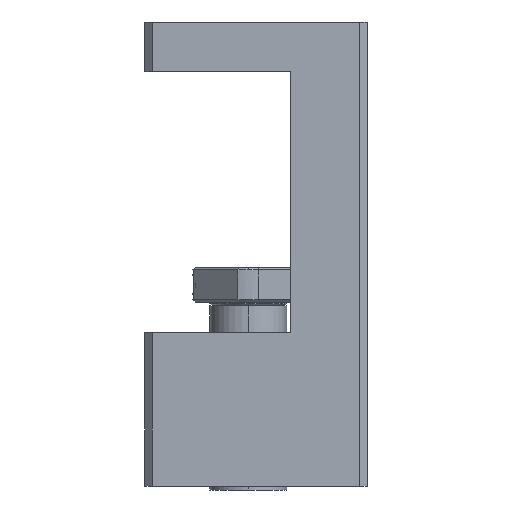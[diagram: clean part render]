
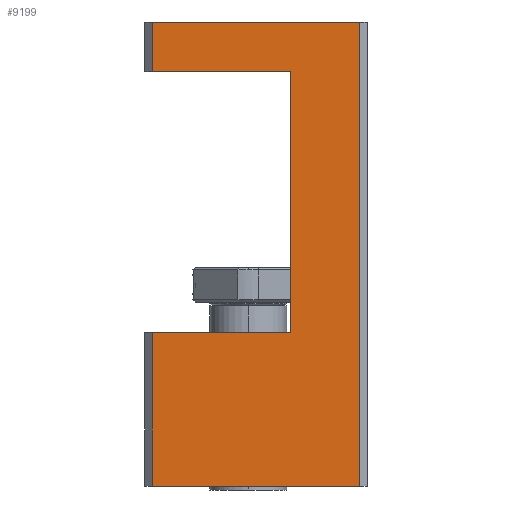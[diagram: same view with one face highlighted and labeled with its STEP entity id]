
A CAD part, left-side view. The second image highlights one B-rep face of the part: STEP entity #9199.
In plain terms, the highlighted planar face has unit normal (-1, 0, 0).
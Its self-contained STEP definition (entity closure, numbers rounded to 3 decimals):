
#10 = ORIENTED_EDGE ( 'NONE', *, *, #1803, .F. ) ;
#506 = DIRECTION ( 'NONE',  ( 0., -1., 0. ) ) ;
#702 = VERTEX_POINT ( 'NONE', #10025 ) ;
#842 = VERTEX_POINT ( 'NONE', #3135 ) ;
#1674 = CARTESIAN_POINT ( 'NONE',  ( -19., 12.5, 60.5 ) ) ;
#1763 = LINE ( 'NONE', #8188, #4875 ) ;
#1778 = VERTEX_POINT ( 'NONE', #6651 ) ;
#1786 = DIRECTION ( 'NONE',  ( 0., 0., -1. ) ) ;
#1803 = EDGE_CURVE ( 'NONE', #702, #7755, #6800, .T. ) ;
#1957 = DIRECTION ( 'NONE',  ( 0., 0., 1. ) ) ;
#2074 = CARTESIAN_POINT ( 'NONE',  ( -19., 13.5, 0. ) ) ;
#2151 = CARTESIAN_POINT ( 'NONE',  ( -19., -14.5, 60.5 ) ) ;
#2174 = ORIENTED_EDGE ( 'NONE', *, *, #2377, .T. ) ;
#2237 = VECTOR ( 'NONE', #1786, 1000. ) ;
#2268 = VECTOR ( 'NONE', #506, 1000. ) ;
#2351 = LINE ( 'NONE', #8047, #2237 ) ;
#2377 = EDGE_CURVE ( 'NONE', #5709, #7755, #4791, .T. ) ;
#3028 = CARTESIAN_POINT ( 'NONE',  ( -19., 13.5, 60.5 ) ) ;
#3036 = VERTEX_POINT ( 'NONE', #6092 ) ;
#3135 = CARTESIAN_POINT ( 'NONE',  ( -19., 12.5, 60.5 ) ) ;
#3293 = ORIENTED_EDGE ( 'NONE', *, *, #8327, .T. ) ;
#3474 = EDGE_CURVE ( 'NONE', #842, #7451, #7550, .T. ) ;
#3766 = DIRECTION ( 'NONE',  ( 1., 0., 0. ) ) ;
#3808 = DIRECTION ( 'NONE',  ( 0., 0., 1. ) ) ;
#3921 = VECTOR ( 'NONE', #4721, 1000. ) ;
#4083 = EDGE_CURVE ( 'NONE', #3036, #1778, #2351, .T. ) ;
#4507 = CARTESIAN_POINT ( 'NONE',  ( -19., 12.5, 54. ) ) ;
#4568 = CARTESIAN_POINT ( 'NONE',  ( -19., -14.5, 60.5 ) ) ;
#4721 = DIRECTION ( 'NONE',  ( 0., -1., 0. ) ) ;
#4791 = LINE ( 'NONE', #8985, #3921 ) ;
#4875 = VECTOR ( 'NONE', #7390, 1000. ) ;
#4951 = VERTEX_POINT ( 'NONE', #7844 ) ;
#5355 = LINE ( 'NONE', #2074, #2268 ) ;
#5361 = CARTESIAN_POINT ( 'NONE',  ( -19., -5.5, 54. ) ) ;
#5387 = ORIENTED_EDGE ( 'NONE', *, *, #4083, .T. ) ;
#5709 = VERTEX_POINT ( 'NONE', #4507 ) ;
#6092 = CARTESIAN_POINT ( 'NONE',  ( -19., 12.5, 20. ) ) ;
#6579 = VECTOR ( 'NONE', #9961, 1000. ) ;
#6651 = CARTESIAN_POINT ( 'NONE',  ( -19., 12.5, 0. ) ) ;
#6662 = EDGE_CURVE ( 'NONE', #4951, #7451, #10016, .T. ) ;
#6709 = CARTESIAN_POINT ( 'NONE',  ( -19., 13.5, 60.5 ) ) ;
#6800 = LINE ( 'NONE', #8489, #7593 ) ;
#6951 = DIRECTION ( 'NONE',  ( 0., 1., 0. ) ) ;
#7069 = AXIS2_PLACEMENT_3D ( 'NONE', #3028, #3766, #6951 ) ;
#7390 = DIRECTION ( 'NONE',  ( 0., 1., 0. ) ) ;
#7451 = VERTEX_POINT ( 'NONE', #2151 ) ;
#7541 = EDGE_CURVE ( 'NONE', #842, #5709, #9553, .T. ) ;
#7550 = LINE ( 'NONE', #6709, #6579 ) ;
#7593 = VECTOR ( 'NONE', #1957, 1000. ) ;
#7755 = VERTEX_POINT ( 'NONE', #5361 ) ;
#7832 = PLANE ( 'NONE',  #7069 ) ;
#7844 = CARTESIAN_POINT ( 'NONE',  ( -19., -14.5, 0. ) ) ;
#7951 = ORIENTED_EDGE ( 'NONE', *, *, #8683, .T. ) ;
#8001 = DIRECTION ( 'NONE',  ( 0., 0., -1. ) ) ;
#8047 = CARTESIAN_POINT ( 'NONE',  ( -19., 12.5, 60.5 ) ) ;
#8123 = VECTOR ( 'NONE', #8001, 1000. ) ;
#8188 = CARTESIAN_POINT ( 'NONE',  ( -19., 13.5, 20. ) ) ;
#8327 = EDGE_CURVE ( 'NONE', #1778, #4951, #5355, .T. ) ;
#8489 = CARTESIAN_POINT ( 'NONE',  ( -19., -5.5, 60.5 ) ) ;
#8681 = EDGE_LOOP ( 'NONE', ( #3293, #9877, #9983, #10183, #2174, #10, #7951, #5387 ) ) ;
#8683 = EDGE_CURVE ( 'NONE', #702, #3036, #1763, .T. ) ;
#8985 = CARTESIAN_POINT ( 'NONE',  ( -19., 13.5, 54. ) ) ;
#9199 = ADVANCED_FACE ( 'NONE', ( #10186 ), #7832, .F. ) ;
#9283 = VECTOR ( 'NONE', #3808, 1000. ) ;
#9553 = LINE ( 'NONE', #1674, #8123 ) ;
#9877 = ORIENTED_EDGE ( 'NONE', *, *, #6662, .T. ) ;
#9961 = DIRECTION ( 'NONE',  ( 0., -1., 0. ) ) ;
#9983 = ORIENTED_EDGE ( 'NONE', *, *, #3474, .F. ) ;
#10016 = LINE ( 'NONE', #4568, #9283 ) ;
#10025 = CARTESIAN_POINT ( 'NONE',  ( -19., -5.5, 20. ) ) ;
#10183 = ORIENTED_EDGE ( 'NONE', *, *, #7541, .T. ) ;
#10186 = FACE_OUTER_BOUND ( 'NONE', #8681, .T. ) ;
